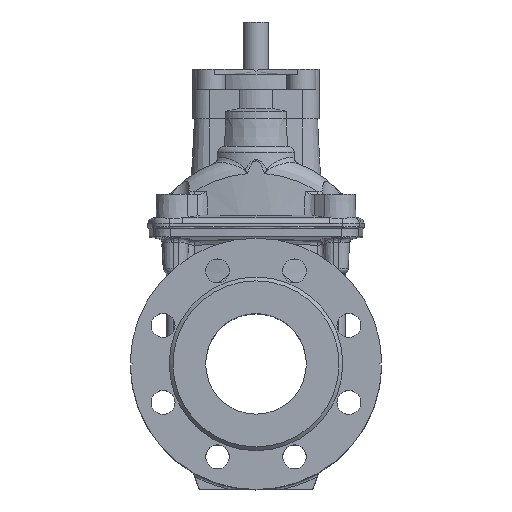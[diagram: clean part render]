
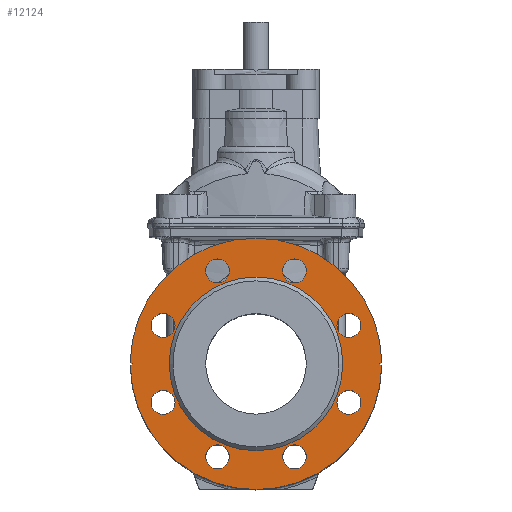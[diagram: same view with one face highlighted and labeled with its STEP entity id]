
A CAD part, top view. The second image highlights one B-rep face of the part: STEP entity #12124.
In plain terms, the highlighted planar face has unit normal (0, 0, 1).
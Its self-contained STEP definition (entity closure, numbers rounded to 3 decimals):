
#525 = ORIENTED_EDGE ( 'NONE', *, *, #15657, .F. ) ;
#746 = DIRECTION ( 'NONE',  ( 0., 0., -1. ) ) ;
#832 = VECTOR ( 'NONE', #5484, 1000. ) ;
#978 = CARTESIAN_POINT ( 'NONE',  ( 30.615, -73.91, 87. ) ) ;
#1268 = LINE ( 'NONE', #6550, #6408 ) ;
#1448 = CIRCLE ( 'NONE', #15541, 9.5 ) ;
#1590 = EDGE_CURVE ( 'NONE', #18481, #18481, #4795, .T. ) ;
#1793 = EDGE_CURVE ( 'NONE', #11659, #11659, #11235, .T. ) ;
#2093 = CIRCLE ( 'NONE', #15768, 100. ) ;
#2188 = FACE_BOUND ( 'NONE', #23144, .T. ) ;
#2209 = ORIENTED_EDGE ( 'NONE', *, *, #18345, .T. ) ;
#2333 = CARTESIAN_POINT ( 'NONE',  ( 69., 0., 87. ) ) ;
#2414 = ORIENTED_EDGE ( 'NONE', *, *, #15041, .F. ) ;
#2809 = FACE_BOUND ( 'NONE', #8594, .T. ) ;
#2909 = EDGE_LOOP ( 'NONE', ( #2209 ) ) ;
#2980 = CARTESIAN_POINT ( 'NONE',  ( 0., 0., 87. ) ) ;
#3190 = DIRECTION ( 'NONE',  ( -0.707, 0.707, 0. ) ) ;
#3397 = VECTOR ( 'NONE', #19921, 1000. ) ;
#3597 = CARTESIAN_POINT ( 'NONE',  ( -21.115, -73.91, 87. ) ) ;
#3728 = CARTESIAN_POINT ( 'NONE',  ( -64.41, -30.615, 87. ) ) ;
#3818 = AXIS2_PLACEMENT_3D ( 'NONE', #13441, #11521, #16310 ) ;
#4033 = ORIENTED_EDGE ( 'NONE', *, *, #9468, .F. ) ;
#4079 = FACE_BOUND ( 'NONE', #2909, .T. ) ;
#4202 = EDGE_LOOP ( 'NONE', ( #4033 ) ) ;
#4694 = PLANE ( 'NONE',  #23115 ) ;
#4795 = CIRCLE ( 'NONE', #12867, 9.5 ) ;
#4830 = EDGE_CURVE ( 'NONE', #19347, #19347, #13344, .T. ) ;
#5009 = VERTEX_POINT ( 'NONE', #15639 ) ;
#5092 = LINE ( 'NONE', #20980, #8554 ) ;
#5332 = CIRCLE ( 'NONE', #23844, 9.5 ) ;
#5457 = AXIS2_PLACEMENT_3D ( 'NONE', #16472, #12581, #22033 ) ;
#5484 = DIRECTION ( 'NONE',  ( 0.707, -0.707, 0. ) ) ;
#5581 = ORIENTED_EDGE ( 'NONE', *, *, #4830, .F. ) ;
#5726 = CIRCLE ( 'NONE', #19824, 9.5 ) ;
#5862 = CARTESIAN_POINT ( 'NONE',  ( 21.115, 73.91, 87. ) ) ;
#6242 = ORIENTED_EDGE ( 'NONE', *, *, #9996, .F. ) ;
#6271 = CARTESIAN_POINT ( 'NONE',  ( 0., 0., 87. ) ) ;
#6408 = VECTOR ( 'NONE', #23689, 1000. ) ;
#6550 = CARTESIAN_POINT ( 'NONE',  ( 98.5, 0., 87. ) ) ;
#6572 = CARTESIAN_POINT ( 'NONE',  ( -30.615, 73.91, 87. ) ) ;
#6588 = EDGE_CURVE ( 'NONE', #5009, #10027, #7599, .T. ) ;
#6790 = ORIENTED_EDGE ( 'NONE', *, *, #6588, .F. ) ;
#6822 = FACE_OUTER_BOUND ( 'NONE', #10934, .T. ) ;
#7199 = EDGE_LOOP ( 'NONE', ( #15550 ) ) ;
#7355 = ORIENTED_EDGE ( 'NONE', *, *, #24875, .T. ) ;
#7599 = LINE ( 'NONE', #15320, #832 ) ;
#7809 = VERTEX_POINT ( 'NONE', #22911 ) ;
#7825 = ORIENTED_EDGE ( 'NONE', *, *, #1793, .T. ) ;
#8059 = ORIENTED_EDGE ( 'NONE', *, *, #21731, .F. ) ;
#8136 = EDGE_LOOP ( 'NONE', ( #2414 ) ) ;
#8406 = DIRECTION ( 'NONE',  ( -1., 0., 0. ) ) ;
#8554 = VECTOR ( 'NONE', #3190, 1000. ) ;
#8594 = EDGE_LOOP ( 'NONE', ( #13022 ) ) ;
#9398 = VERTEX_POINT ( 'NONE', #3728 ) ;
#9446 = CIRCLE ( 'NONE', #14705, 9.5 ) ;
#9468 = EDGE_CURVE ( 'NONE', #9398, #9398, #5726, .T. ) ;
#9573 = EDGE_CURVE ( 'NONE', #21254, #21254, #5332, .T. ) ;
#9886 = CIRCLE ( 'NONE', #5457, 9.5 ) ;
#9996 = EDGE_CURVE ( 'NONE', #7809, #22590, #5092, .T. ) ;
#10027 = VERTEX_POINT ( 'NONE', #18823 ) ;
#10143 = CARTESIAN_POINT ( 'NONE',  ( 21.115, -73.91, 87. ) ) ;
#10313 = CARTESIAN_POINT ( 'NONE',  ( 73.91, 30.615, 87. ) ) ;
#10500 = FACE_BOUND ( 'NONE', #20185, .T. ) ;
#10624 = DIRECTION ( 'NONE',  ( 1., 0., 0. ) ) ;
#10864 = FACE_BOUND ( 'NONE', #4202, .T. ) ;
#10934 = EDGE_LOOP ( 'NONE', ( #6242, #525, #7355, #6790, #8059, #23876 ) ) ;
#11044 = DIRECTION ( 'NONE',  ( 0., 0., 1. ) ) ;
#11235 = CIRCLE ( 'NONE', #21714, 9.5 ) ;
#11521 = DIRECTION ( 'NONE',  ( 0., 0., 1. ) ) ;
#11532 = DIRECTION ( 'NONE',  ( 0., 0., -1. ) ) ;
#11659 = VERTEX_POINT ( 'NONE', #24760 ) ;
#11724 = AXIS2_PLACEMENT_3D ( 'NONE', #6572, #14535, #14660 ) ;
#12124 = ADVANCED_FACE ( 'NONE', ( #4079, #19454, #2188, #16305, #21976, #10864, #22347, #10500, #6822, #2809 ), #4694, .T. ) ;
#12170 = VERTEX_POINT ( 'NONE', #2333 ) ;
#12229 = CARTESIAN_POINT ( 'NONE',  ( -99.989, -1.489, 87. ) ) ;
#12527 = DIRECTION ( 'NONE',  ( 0., 0., 1. ) ) ;
#12545 = DIRECTION ( 'NONE',  ( 1., 0., 0. ) ) ;
#12581 = DIRECTION ( 'NONE',  ( 0., 0., 1. ) ) ;
#12867 = AXIS2_PLACEMENT_3D ( 'NONE', #16800, #14671, #18560 ) ;
#12947 = DIRECTION ( 'NONE',  ( -1., 0., 0. ) ) ;
#13022 = ORIENTED_EDGE ( 'NONE', *, *, #22010, .F. ) ;
#13085 = CIRCLE ( 'NONE', #3818, 100. ) ;
#13201 = VERTEX_POINT ( 'NONE', #5862 ) ;
#13322 = CARTESIAN_POINT ( 'NONE',  ( -73.91, -30.615, 87. ) ) ;
#13344 = CIRCLE ( 'NONE', #11724, 9.5 ) ;
#13441 = CARTESIAN_POINT ( 'NONE',  ( 0., 0., 87. ) ) ;
#13457 = CARTESIAN_POINT ( 'NONE',  ( -64.41, 30.615, 87. ) ) ;
#13571 = DIRECTION ( 'NONE',  ( 1., 0., 0. ) ) ;
#13694 = VERTEX_POINT ( 'NONE', #3597 ) ;
#13969 = EDGE_CURVE ( 'NONE', #13201, #13201, #9446, .T. ) ;
#13986 = DIRECTION ( 'NONE',  ( 0., 0., 1. ) ) ;
#14379 = LINE ( 'NONE', #12229, #3397 ) ;
#14535 = DIRECTION ( 'NONE',  ( 0., 0., 1. ) ) ;
#14660 = DIRECTION ( 'NONE',  ( 1., 0., 0. ) ) ;
#14671 = DIRECTION ( 'NONE',  ( 0., 0., -1. ) ) ;
#14683 = CARTESIAN_POINT ( 'NONE',  ( -73.91, 30.615, 87. ) ) ;
#14705 = AXIS2_PLACEMENT_3D ( 'NONE', #21007, #11532, #21374 ) ;
#14933 = ORIENTED_EDGE ( 'NONE', *, *, #1590, .T. ) ;
#15041 = EDGE_CURVE ( 'NONE', #13694, #13694, #9886, .T. ) ;
#15320 = CARTESIAN_POINT ( 'NONE',  ( 99.989, -1.489, 87. ) ) ;
#15541 = AXIS2_PLACEMENT_3D ( 'NONE', #978, #16351, #12947 ) ;
#15550 = ORIENTED_EDGE ( 'NONE', *, *, #13969, .T. ) ;
#15639 = CARTESIAN_POINT ( 'NONE',  ( 98.5, 0., 87. ) ) ;
#15657 = EDGE_CURVE ( 'NONE', #22089, #7809, #14379, .T. ) ;
#15768 = AXIS2_PLACEMENT_3D ( 'NONE', #2980, #11044, #22520 ) ;
#16305 = FACE_BOUND ( 'NONE', #7199, .T. ) ;
#16310 = DIRECTION ( 'NONE',  ( 1., 0., 0. ) ) ;
#16351 = DIRECTION ( 'NONE',  ( 0., 0., -1. ) ) ;
#16472 = CARTESIAN_POINT ( 'NONE',  ( -30.615, -73.91, 87. ) ) ;
#16562 = EDGE_CURVE ( 'NONE', #17030, #22590, #13085, .T. ) ;
#16800 = CARTESIAN_POINT ( 'NONE',  ( 73.91, -30.615, 87. ) ) ;
#17030 = VERTEX_POINT ( 'NONE', #22568 ) ;
#17101 = CARTESIAN_POINT ( 'NONE',  ( 64.41, -30.615, 87. ) ) ;
#17798 = EDGE_LOOP ( 'NONE', ( #18908 ) ) ;
#18102 = CIRCLE ( 'NONE', #23742, 69. ) ;
#18345 = EDGE_CURVE ( 'NONE', #19727, #19727, #1448, .T. ) ;
#18481 = VERTEX_POINT ( 'NONE', #17101 ) ;
#18560 = DIRECTION ( 'NONE',  ( -1., 0., 0. ) ) ;
#18749 = CARTESIAN_POINT ( 'NONE',  ( -99.989, -1.489, 87. ) ) ;
#18823 = CARTESIAN_POINT ( 'NONE',  ( 99.989, -1.489, 87. ) ) ;
#18908 = ORIENTED_EDGE ( 'NONE', *, *, #9573, .F. ) ;
#19347 = VERTEX_POINT ( 'NONE', #24879 ) ;
#19454 = FACE_BOUND ( 'NONE', #21309, .T. ) ;
#19727 = VERTEX_POINT ( 'NONE', #10143 ) ;
#19824 = AXIS2_PLACEMENT_3D ( 'NONE', #13322, #23369, #13571 ) ;
#19921 = DIRECTION ( 'NONE',  ( 0.707, 0.707, 0. ) ) ;
#20185 = EDGE_LOOP ( 'NONE', ( #5581 ) ) ;
#20716 = DIRECTION ( 'NONE',  ( 0., 0., 1. ) ) ;
#20980 = CARTESIAN_POINT ( 'NONE',  ( -98.5, 0., 87. ) ) ;
#21007 = CARTESIAN_POINT ( 'NONE',  ( 30.615, 73.91, 87. ) ) ;
#21254 = VERTEX_POINT ( 'NONE', #13457 ) ;
#21309 = EDGE_LOOP ( 'NONE', ( #14933 ) ) ;
#21374 = DIRECTION ( 'NONE',  ( -1., 0., 0. ) ) ;
#21664 = DIRECTION ( 'NONE',  ( 1., 0., 0. ) ) ;
#21714 = AXIS2_PLACEMENT_3D ( 'NONE', #10313, #746, #8406 ) ;
#21731 = EDGE_CURVE ( 'NONE', #17030, #5009, #1268, .T. ) ;
#21976 = FACE_BOUND ( 'NONE', #8136, .T. ) ;
#22010 = EDGE_CURVE ( 'NONE', #12170, #12170, #18102, .T. ) ;
#22033 = DIRECTION ( 'NONE',  ( 1., 0., 0. ) ) ;
#22089 = VERTEX_POINT ( 'NONE', #18749 ) ;
#22347 = FACE_BOUND ( 'NONE', #17798, .T. ) ;
#22520 = DIRECTION ( 'NONE',  ( 1., 0., 0. ) ) ;
#22568 = CARTESIAN_POINT ( 'NONE',  ( 99.989, 1.489, 87. ) ) ;
#22590 = VERTEX_POINT ( 'NONE', #24749 ) ;
#22911 = CARTESIAN_POINT ( 'NONE',  ( -98.5, 0., 87. ) ) ;
#23115 = AXIS2_PLACEMENT_3D ( 'NONE', #24098, #12527, #10624 ) ;
#23144 = EDGE_LOOP ( 'NONE', ( #7825 ) ) ;
#23369 = DIRECTION ( 'NONE',  ( 0., 0., 1. ) ) ;
#23689 = DIRECTION ( 'NONE',  ( -0.707, -0.707, 0. ) ) ;
#23742 = AXIS2_PLACEMENT_3D ( 'NONE', #6271, #13986, #21664 ) ;
#23844 = AXIS2_PLACEMENT_3D ( 'NONE', #14683, #20716, #12545 ) ;
#23876 = ORIENTED_EDGE ( 'NONE', *, *, #16562, .T. ) ;
#24098 = CARTESIAN_POINT ( 'NONE',  ( 0., 69., 87. ) ) ;
#24749 = CARTESIAN_POINT ( 'NONE',  ( -99.989, 1.489, 87. ) ) ;
#24760 = CARTESIAN_POINT ( 'NONE',  ( 64.41, 30.615, 87. ) ) ;
#24875 = EDGE_CURVE ( 'NONE', #22089, #10027, #2093, .T. ) ;
#24879 = CARTESIAN_POINT ( 'NONE',  ( -21.115, 73.91, 87. ) ) ;
